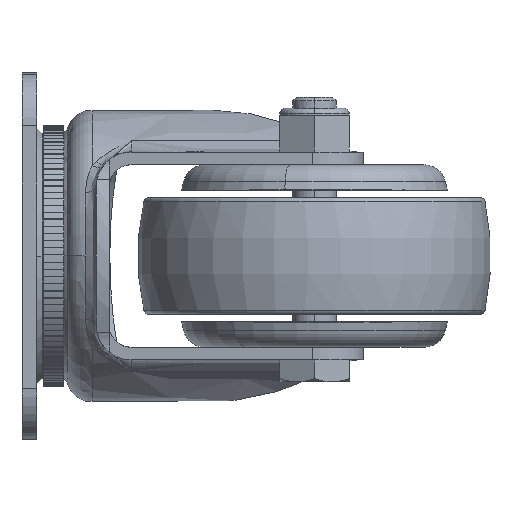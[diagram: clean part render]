
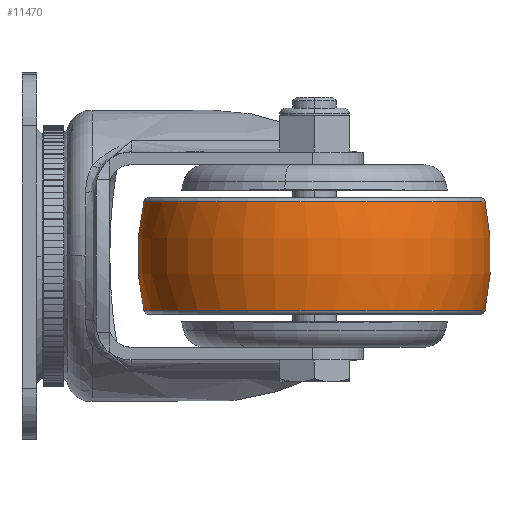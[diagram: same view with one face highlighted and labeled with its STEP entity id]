
A CAD part, left-side view. The second image highlights one B-rep face of the part: STEP entity #11470.
In plain terms, the highlighted toroidal (fillet/blend) face has major radius 18.771 mm and minor radius 67.256 mm.
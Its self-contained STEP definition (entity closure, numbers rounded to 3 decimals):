
#906 = CARTESIAN_POINT ( 'NONE',  ( 15.283, 0., 46.82 ) ) ;
#1098 = VERTEX_POINT ( 'NONE', #906 ) ;
#1197 = DIRECTION ( 'NONE',  ( -1., 0., 0. ) ) ;
#2721 = VERTEX_POINT ( 'NONE', #15787 ) ;
#2828 = AXIS2_PLACEMENT_3D ( 'NONE', #9262, #3434, #15139 ) ;
#3434 = DIRECTION ( 'NONE',  ( -1., 0., 0. ) ) ;
#4345 = AXIS2_PLACEMENT_3D ( 'NONE', #14402, #10231, #11875 ) ;
#4665 = AXIS2_PLACEMENT_3D ( 'NONE', #12516, #1197, #13075 ) ;
#7741 = CIRCLE ( 'NONE', #4345, 46.82 ) ;
#9262 = CARTESIAN_POINT ( 'NONE',  ( -14.472, 0., 0. ) ) ;
#9927 = EDGE_LOOP ( 'NONE', ( #16153 ) ) ;
#10231 = DIRECTION ( 'NONE',  ( -1., 0., 0. ) ) ;
#11440 = FACE_OUTER_BOUND ( 'NONE', #12189, .T. ) ;
#11470 = ADVANCED_FACE ( 'NONE', ( #14345, #11440 ), #15793, .T. ) ;
#11875 = DIRECTION ( 'NONE',  ( 0., 0., 1. ) ) ;
#12189 = EDGE_LOOP ( 'NONE', ( #18925 ) ) ;
#12379 = EDGE_CURVE ( 'NONE', #2721, #2721, #13287, .T. ) ;
#12516 = CARTESIAN_POINT ( 'NONE',  ( 0.405, 0., 0. ) ) ;
#13075 = DIRECTION ( 'NONE',  ( 0., 0., 1. ) ) ;
#13287 = CIRCLE ( 'NONE', #2828, 46.82 ) ;
#13295 = EDGE_CURVE ( 'NONE', #1098, #1098, #7741, .T. ) ;
#14345 = FACE_OUTER_BOUND ( 'NONE', #9927, .T. ) ;
#14402 = CARTESIAN_POINT ( 'NONE',  ( 15.283, 0., 0. ) ) ;
#15139 = DIRECTION ( 'NONE',  ( 0., 0., 1. ) ) ;
#15787 = CARTESIAN_POINT ( 'NONE',  ( -14.472, 0., 46.82 ) ) ;
#15793 = TOROIDAL_SURFACE ( 'NONE', #4665, -18.771, 67.256 ) ;
#16153 = ORIENTED_EDGE ( 'NONE', *, *, #12379, .F. ) ;
#18925 = ORIENTED_EDGE ( 'NONE', *, *, #13295, .T. ) ;
